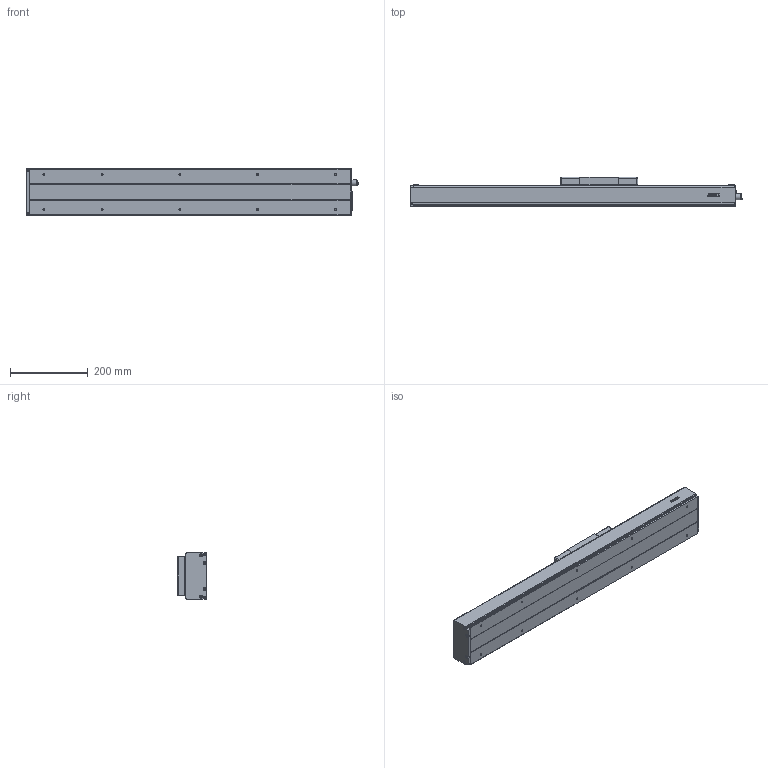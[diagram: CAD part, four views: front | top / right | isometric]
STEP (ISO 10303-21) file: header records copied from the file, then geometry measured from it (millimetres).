
FILE_DESCRIPTION(/* description */ (''),/* implementation_level */ '2;1');
FILE_NAME(/* name */ 'D:\混合母檔20191031\混和母檔\混和母檔\bin\Debug\Download\3D\KS120-20C-350AFI\KS120-20C-350AFI.stp',/* time_stamp */ '2019-11-04T15:22:36+08:00',/* author */ ('user'),/* organization */ (''),/* preprocessor_version */ 'ST-DEVELOPER v16.13',/* originating_system */ 'Autodesk Inventor 2018',/* authorisation */ '');
FILE_SCHEMA (('AUTOMOTIVE_DESIGN { 1 0 10303 214 3 1 1 }'));
Length unit declared in the file: millimetre
Products named in the file (3): KS120-20C-350AFI; KS120-FI; KS120-SL
Assembly tree (2 placements, depth 2):
  KS120-20C-350AFI
    KS120-FI
    KS120-SL
Bounding box: 854.5 x 77 x 120 mm (x, y, z)
Volume: 2157500.3 mm3; surface area: 692342.9 mm2
Topology: 4 solids, 11 shells, 991 faces, 2539 edges, 1638 vertices
Faces by surface type: plane 575, cylinder 184, bspline 136, cone 78, torus 14, sphere 4
Full cylindrical faces by diameter (mm): 2.459 x6, 3.242 x4, 4 x32, 4.3 x4, 4.5 x12, 4.917 x10, 6 x6, 7 x4, 8 x9, 8.4 x12, 10.437 x1, 12 x2, 14 x1, 15 x1, 15.538 x1, 19 x1, 28 x1, 30 x1
Entity records: 32873 total; most frequent: CARTESIAN_POINT 10590, ORIENTED_EDGE 4538, DIRECTION 4145, EDGE_CURVE 2267, VERTEX_POINT 1558, LINE 1525, VECTOR 1525, AXIS2_PLACEMENT_3D 1310
